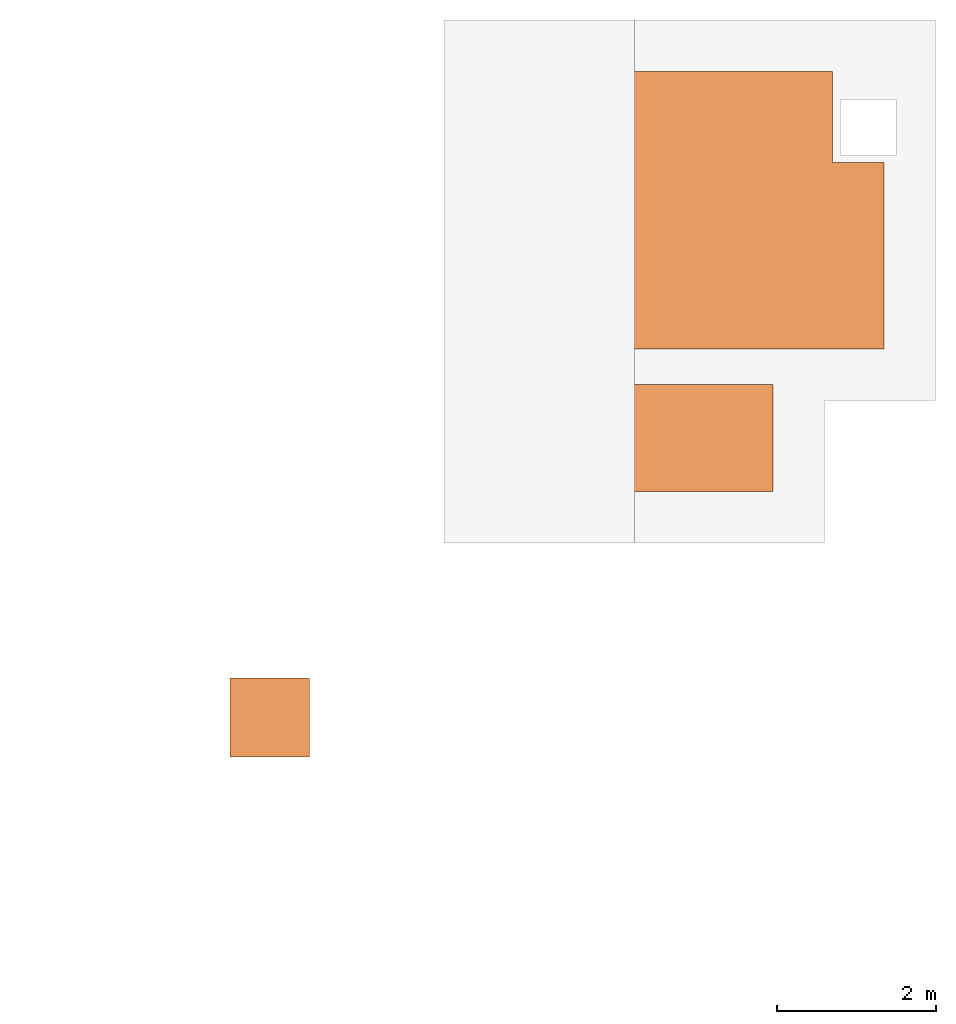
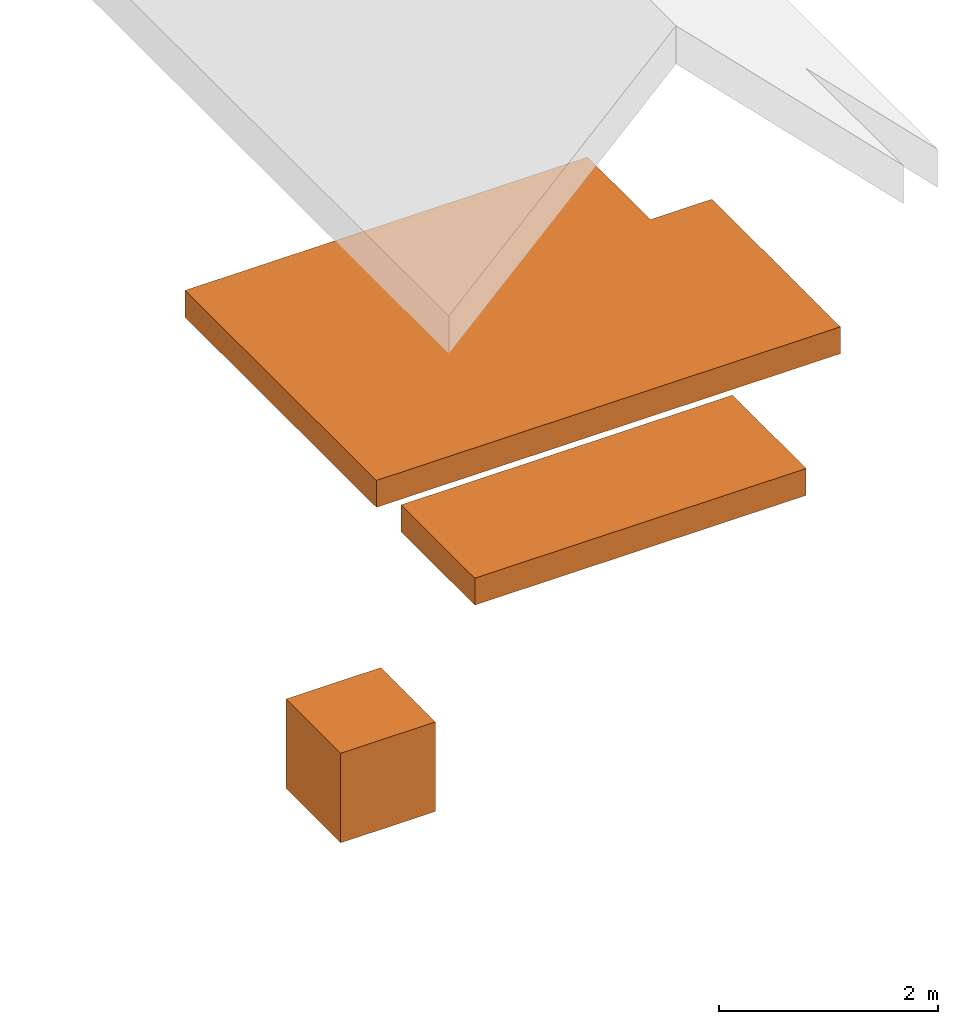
# Not in any storey, part 2 of 2: 2 proxies.
"""IFC4 building model written with IfcOpenShell, lengths in millimetres."""

import ifcopenshell
import ifcopenshell.guid

model = None  # the IFC model being written
_history = None  # IfcOwnerHistory: only IFC2X3 demands one
_inside = {}  # id of a spatial element -> (the spatial element, [elements in it])
_under = {}  # id of a project, library or spatial element -> (it, [spatial elements below it])
_declared = {}  # id of a project -> (the project, [libraries it declares])
_typed = {}  # id of a type object -> (the type object, [elements of that type])
_made_of = {}  # id of a material, layer set ... -> (it, [elements and type objects made of it])


def new_model(schema):
    """Start an empty IFC model of exactly this schema.

    Asked for "IFC4X3", IfcOpenShell would pick the latest addendum, in which some entities
    have other attributes; the version numbers below select the first issue.
    IFC2X3 requires an IfcOwnerHistory on every rooted entity: one is made here for all.
    """
    global model, _history
    if schema == "IFC4X3":
        model = ifcopenshell.file(schema_version=(4, 3, 0, 0))
    else:
        model = ifcopenshell.file(schema=schema)
    _inside.clear()
    _under.clear()
    _declared.clear()
    _typed.clear()
    _made_of.clear()
    _history = None
    if model.schema == "IFC2X3":
        org = make("IfcOrganization", Name="unknown")
        user = make(
            "IfcPersonAndOrganization",
            ThePerson=make("IfcPerson", FamilyName="unknown"),
            TheOrganization=org,
        )
        app = make(
            "IfcApplication",
            ApplicationDeveloper=org,
            Version="unknown",
            ApplicationFullName="unknown",
            ApplicationIdentifier="unknown",
        )
        _history = make(
            "IfcOwnerHistory",
            OwningUser=user,
            OwningApplication=app,
            ChangeAction="ADDED",
            CreationDate=0,
        )
    return model


def make(cls, **values):
    """One entity of the class cls with the attributes given. An attribute that is None is left unset."""
    return model.create_entity(
        cls, **{name: value for name, value in values.items() if value is not None}
    )


def rooted(cls, **values):
    """An entity with a GlobalId (a new one), such as an element, a storey or a relation."""
    return make(cls, GlobalId=ifcopenshell.guid.new(), OwnerHistory=_history, **values)


def si_unit(unit_type, name, prefix=None):
    """IfcSIUnit, for example si_unit("LENGTHUNIT", "METRE", prefix="MILLI")."""
    return make("IfcSIUnit", UnitType=unit_type, Prefix=prefix, Name=name)


def assignment(units):
    """IfcUnitAssignment: the units of a project."""
    return None if units is None else make("IfcUnitAssignment", Units=units)


def point(xyz):
    """IfcCartesianPoint."""
    return None if xyz is None else make("IfcCartesianPoint", Coordinates=xyz)


def direction(xyz):
    """IfcDirection."""
    return None if xyz is None else make("IfcDirection", DirectionRatios=xyz)


def frame(location, z_axis=None, x_axis=None):
    """IfcAxis2Placement3D, a coordinate frame: its origin and axes. An axis left out is left unset."""
    return make(
        "IfcAxis2Placement3D",
        Location=point(location),
        Axis=direction(z_axis),
        RefDirection=direction(x_axis),
    )


def origin_with_axes():
    """The frame at (0, 0, 0) with the z axis (0, 0, 1) and the x axis (1, 0, 0) written out."""
    return frame((0.0, 0.0, 0.0), z_axis=(0.0, 0.0, 1.0), x_axis=(1.0, 0.0, 0.0))


def place(relative_to, where):
    """IfcLocalPlacement: puts the frame where relative to a parent placement (None: the world)."""
    return make(
        "IfcLocalPlacement", PlacementRelTo=relative_to, RelativePlacement=where
    )


def context(
    kind, dimensions, precision=None, world=None, true_north=None, identifier=None
):
    """IfcGeometricRepresentationContext, for example the 3D "Model" context."""
    return make(
        "IfcGeometricRepresentationContext",
        ContextIdentifier=identifier,
        ContextType=kind,
        CoordinateSpaceDimension=dimensions,
        Precision=precision,
        WorldCoordinateSystem=world,
        TrueNorth=true_north,
    )


def subcontext(parent, identifier, kind, view, scale=None):
    """IfcGeometricRepresentationSubContext, for example "Body" below "Model"."""
    return make(
        "IfcGeometricRepresentationSubContext",
        ContextIdentifier=identifier,
        ContextType=kind,
        ParentContext=parent,
        TargetScale=scale,
        TargetView=view,
    )


def project(units=None, contexts=None):
    """IfcProject with its units and contexts."""
    return rooted(
        "IfcProject",
        Name="project",
        RepresentationContexts=contexts,
        UnitsInContext=assignment(units),
    )


def spatial(cls, under=None, at=None, **own):
    """A site, building, storey or space (cls), placed at a placement, below another one or the project."""
    s = rooted(cls, ObjectPlacement=at, **own)
    if under is not None:
        _under.setdefault(under.id(), (under, []))[1].append(s)
    return s


def point_list(points):
    """IfcCartesianPointList2D or 3D."""
    cls = (
        "IfcCartesianPointList2D" if len(points[0]) == 2 else "IfcCartesianPointList3D"
    )
    return make(cls, CoordList=points)


def triangles(points, corners, closed=None, point_numbers=None):
    """IfcTriangulatedFaceSet: each triangle names its three corners, points numbered from 1."""
    return make(
        "IfcTriangulatedFaceSet",
        Coordinates=point_list(points),
        Closed=closed,
        CoordIndex=corners,
        PnIndex=point_numbers,
    )


def shape(context_of_items, identifier, shape_type, items):
    """IfcShapeRepresentation: the items that make up one representation, for example the "Body"."""
    return make(
        "IfcShapeRepresentation",
        ContextOfItems=context_of_items,
        RepresentationIdentifier=identifier,
        RepresentationType=shape_type,
        Items=items,
    )


def material(Name=None, Category=None):
    """IfcMaterial."""
    return make("IfcMaterial", Name=Name, Category=Category)


def made_of(thing, what):
    """Note that an element or type object is made of a material, layer set ...; save() writes the relation."""
    if what is not None:
        _made_of.setdefault(what.id(), (what, []))[1].append(thing)
    return thing


def type_object(cls, material=None, **own):
    """A type object (cls), such as IfcWallType, which elements share."""
    return made_of(rooted(cls, **own), material)


def element(
    cls,
    number,
    at=None,
    inside=None,
    cuts=None,
    type_object=None,
    material=None,
    context=None,
    identifier="Body",
    shape_type=None,
    held_by="IfcProductDefinitionShape",
    body=None,
    shapes=None,
    **own,
):
    """One element of the class cls, such as IfcWall. Its Tag is "e" and its number.

    at: its placement. inside: the storey or other place that contains it. cuts: it is an
    opening in that element (IfcRelVoidsElement). A single representation is given by context,
    identifier, shape_type and body (its items); several are given by shapes. held_by: the class
    of the entity that holds the representations. save() writes the other relations.
    """
    e = rooted(cls, Tag="e%d" % number, ObjectPlacement=at, **own)
    if body is not None:
        shapes = [shape(context, identifier, shape_type, body)]
    if shapes is not None:
        e.Representation = make(held_by, Representations=shapes)
    if inside is not None:
        _inside.setdefault(inside.id(), (inside, []))[1].append(e)
    if cuts is not None:
        rooted(
            "IfcRelVoidsElement", RelatingBuildingElement=cuts, RelatedOpeningElement=e
        )
    if type_object is not None:
        _typed.setdefault(type_object.id(), (type_object, []))[1].append(e)
    return made_of(e, material)


def aggregate(whole, parts):
    """IfcRelAggregates: a whole, such as a stair, and the parts it consists of."""
    return rooted("IfcRelAggregates", RelatingObject=whole, RelatedObjects=parts)


def save(model, path):
    """Write the relations noted so far, then the file.

    IfcRelAggregates (storeys below a building ...), IfcRelContainedInSpatialStructure (elements
    in a storey), IfcRelDefinesByType, IfcRelAssociatesMaterial and IfcRelDeclares: one each for
    every whole, place, type object, material and project.
    """
    for whole, parts in _under.values():
        aggregate(whole, parts)
    for where, things in _inside.values():
        rooted(
            "IfcRelContainedInSpatialStructure",
            RelatedElements=things,
            RelatingStructure=where,
        )
    for kind, things in _typed.values():
        rooted("IfcRelDefinesByType", RelatedObjects=things, RelatingType=kind)
    for what, things in _made_of.values():
        rooted("IfcRelAssociatesMaterial", RelatedObjects=things, RelatingMaterial=what)
    for by, libraries in _declared.values():
        rooted("IfcRelDeclares", RelatingContext=by, RelatedDefinitions=libraries)
    model.write(path)


model = new_model("IFC4")

# Units and contexts
model_context = context("Model", 3, world=origin_with_axes())
body_context = subcontext(model_context, "Body", "Model", "MODEL_VIEW")
ifc_project = project(units=[si_unit("LENGTHUNIT", "METRE", prefix="MILLI"), si_unit("AREAUNIT", "SQUARE_METRE"), si_unit("VOLUMEUNIT", "CUBIC_METRE")], contexts=[model_context])

# Sites, building
site_1_placement = place(None, origin_with_axes())
site_1 = spatial("IfcSite", under=ifc_project, at=site_1_placement, Name="environment - site", CompositionType="COMPLEX")
site_2_placement = place(site_1_placement, frame((5800.000000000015, 5800.000000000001, -1300.0000000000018), z_axis=(0.0, 0.0, 1.0), x_axis=(1.0, 0.0, 0.0)))
site_2 = spatial("IfcSite", under=site_1, at=site_2_placement, Name="house - site", CompositionType="PARTIAL")
building_placement = place(site_2_placement, frame((-2799.999999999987, -2799.9999999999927, 1300.0), z_axis=(0.0, 0.0, 1.0), x_axis=(1.0, 0.0, 0.0)))
building = spatial("IfcBuilding", under=site_2, at=building_placement, Name="Single-family house", CompositionType="ELEMENT")

# Proxies
ifc_material_1 = material(Name="bulk-material_sand-coarse_generic")
building_element_proxy_type_1 = type_object("IfcBuildingElementProxyType", Name="sand bedding", PredefinedType="ELEMENT")
proxy_1_placement = place(building_placement, origin_with_axes())
element("IfcBuildingElementProxy", 1, at=proxy_1_placement, inside=building, type_object=building_element_proxy_type_1, material=ifc_material_1, Name="sand bedding", ObjectType="subgrade", context=body_context, shape_type="Tessellation", body=[
    triangles([(3662.323995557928, 799.9999999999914, -549.9999999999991), (2799.999999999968, 799.9999999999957, -598.6920309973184), (2799.9999999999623, 1248.1378189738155, -549.9999999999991), (2799.999999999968, 401.1533964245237, -549.9999999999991), (2508.770683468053, 799.9999999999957, -549.9999999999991), (2799.999999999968, 799.9999999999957, -598.6920309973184), (3662.323995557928, 799.9999999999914, -549.9999999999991), (3034.5398606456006, 565.4601393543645, -549.9999999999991), (2799.999999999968, 799.9999999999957, -598.6920309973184), (2799.999999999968, 799.9999999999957, -598.6920309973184), (2508.770683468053, 799.9999999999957, -549.9999999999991), (2612.046142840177, 987.9538571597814, -549.9999999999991), (3034.5398606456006, 565.4601393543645, -549.9999999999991), (2799.999999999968, 401.1533964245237, -549.9999999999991), (2799.999999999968, 799.9999999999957, -598.6920309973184), (2799.999999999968, 799.9999999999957, -598.6920309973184), (2612.046142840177, 987.9538571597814, -549.9999999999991), (2799.9999999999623, 1248.1378189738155, -549.9999999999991), (5250.000000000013, 2149.9999999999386, -249.99999999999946), (4600.000000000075, 4499.999999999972, -249.99999999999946), (350.0000000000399, 2149.99999999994, -249.99999999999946), (5250.000000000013, 4499.999999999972, -249.99999999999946), (4600.000000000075, 5650.0000000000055, -249.99999999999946), (350.0000000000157, 5649.99999999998, -249.99999999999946), (3850.0000000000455, 349.99999999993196, -249.99999999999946), (350.0000000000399, 1699.999999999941, -249.99999999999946), (350.00000000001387, 349.9999999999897, -249.99999999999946), (3850.0000000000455, 1699.9999999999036, -249.99999999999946), (350.00000000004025, 1699.9999999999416, -549.9999999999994), (2612.046142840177, 987.9538571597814, -549.9999999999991), (2508.770683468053, 799.9999999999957, -549.9999999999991), (2799.9999999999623, 1248.1378189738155, -549.9999999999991), (3850.0000000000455, 1699.9999999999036, -549.9999999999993), (3662.323995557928, 799.9999999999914, -549.9999999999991), (350.00000000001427, 349.9999999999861, -549.9999999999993), (2799.999999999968, 401.1533964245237, -549.9999999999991), (3850.0000000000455, 349.99999999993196, -549.9999999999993), (3034.5398606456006, 565.4601393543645, -549.9999999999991), (4600.000000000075, 5650.0000000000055, -549.9999999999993), (350.00000000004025, 2149.99999999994, -549.9999999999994), (350.0000000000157, 5649.99999999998, -549.9999999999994), (4600.000000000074, 4499.999999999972, -549.9999999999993), (5250.000000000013, 2149.9999999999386, -549.9999999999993), (5250.000000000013, 4499.999999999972, -549.9999999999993), (3850.0000000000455, 349.99999999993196, -549.9999999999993), (350.00000000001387, 349.9999999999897, -249.99999999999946), (350.00000000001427, 349.9999999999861, -549.9999999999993), (3850.0000000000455, 349.99999999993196, -249.99999999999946), (350.00000000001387, 349.9999999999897, -249.99999999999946), (350.00000000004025, 1699.9999999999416, -549.9999999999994), (350.00000000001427, 349.9999999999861, -549.9999999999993), (350.0000000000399, 1699.999999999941, -249.99999999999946), (350.0000000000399, 1699.999999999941, -249.99999999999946), (3850.0000000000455, 1699.9999999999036, -549.9999999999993), (350.00000000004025, 1699.9999999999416, -549.9999999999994), (3850.0000000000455, 1699.9999999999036, -249.99999999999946), (5250.000000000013, 2149.9999999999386, -549.9999999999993), (350.0000000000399, 2149.99999999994, -249.99999999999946), (350.00000000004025, 2149.99999999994, -549.9999999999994), (5250.000000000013, 2149.9999999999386, -249.99999999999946), (350.0000000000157, 5649.99999999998, -249.99999999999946), (350.00000000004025, 2149.99999999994, -549.9999999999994), (350.0000000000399, 2149.99999999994, -249.99999999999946), (350.0000000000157, 5649.99999999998, -549.9999999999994), (3850.0000000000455, 1699.9999999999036, -549.9999999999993), (3850.0000000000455, 349.99999999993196, -249.99999999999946), (3850.0000000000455, 349.99999999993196, -549.9999999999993), (3850.0000000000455, 1699.9999999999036, -249.99999999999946), (350.0000000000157, 5649.99999999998, -249.99999999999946), (4600.000000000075, 5650.0000000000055, -549.9999999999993), (350.0000000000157, 5649.99999999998, -549.9999999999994), (4600.000000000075, 5650.0000000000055, -249.99999999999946), (5250.000000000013, 4499.999999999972, -549.9999999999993), (5250.000000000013, 2149.9999999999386, -249.99999999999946), (5250.000000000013, 2149.9999999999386, -549.9999999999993), (5250.000000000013, 4499.999999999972, -249.99999999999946), (4600.000000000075, 5650.0000000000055, -549.9999999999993), (4600.000000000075, 4499.999999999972, -249.99999999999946), (4600.000000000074, 4499.999999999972, -549.9999999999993), (4600.000000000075, 5650.0000000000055, -249.99999999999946), (4600.000000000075, 4499.999999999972, -249.99999999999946), (5250.000000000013, 4499.999999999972, -549.9999999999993), (4600.000000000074, 4499.999999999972, -549.9999999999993), (5250.000000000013, 4499.999999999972, -249.99999999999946)], [[1, 2, 3], [4, 5, 6], [7, 8, 9], [10, 11, 12], [13, 14, 15], [16, 17, 18], [19, 20, 21], [20, 19, 22], [21, 23, 24], [23, 21, 20], [25, 26, 27], [26, 25, 28], [29, 30, 31], [30, 29, 32], [32, 29, 33], [32, 33, 34], [35, 36, 37], [36, 35, 29], [36, 29, 31], [37, 36, 38], [37, 38, 34], [37, 34, 33], [39, 40, 41], [40, 39, 42], [42, 43, 40], [43, 42, 44], [45, 46, 47], [46, 45, 48], [49, 50, 51], [50, 49, 52], [53, 54, 55], [54, 53, 56], [57, 58, 59], [58, 57, 60], [61, 62, 63], [62, 61, 64], [65, 66, 67], [66, 65, 68], [69, 70, 71], [70, 69, 72], [73, 74, 75], [74, 73, 76], [77, 78, 79], [78, 77, 80], [81, 82, 83], [82, 81, 84]]),
])
ifc_material_2 = material(Name="virtual_white")
building_element_proxy_type_2 = type_object("IfcBuildingElementProxyType", Name="origin", PredefinedType="USERDEFINED")
proxy_2_placement = place(site_2_placement, frame((-5800.000000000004, -5799.999999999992, 1300.0), z_axis=(0.0, 0.0, 1.0), x_axis=(1.0, 0.0, 0.0)))
element("IfcBuildingElementProxy", 2, at=proxy_2_placement, inside=site_2, type_object=building_element_proxy_type_2, material=ifc_material_2, Name="origin", ObjectType="origin", context=body_context, shape_type="Tessellation", body=[
    triangles([(1000.0000000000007, 1000.0000000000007, 0.0), (1000.0000000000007, 0.0, 1000.0), (1000.0000000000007, 0.0, 0.0), (1000.0000000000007, 1000.0000000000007, 1000.0), (0.0, 1000.0000000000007, 1000.0), (1000.0000000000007, 1000.0000000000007, 0.0), (0.0, 1000.0000000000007, 0.0), (1000.0000000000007, 1000.0000000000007, 1000.0), (1000.0000000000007, 1000.0000000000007, 0.0), (0.0, 0.0, 0.0), (0.0, 1000.0000000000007, 0.0), (1000.0000000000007, 0.0, 0.0), (0.0, 1000.0000000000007, 1000.0), (0.0, 0.0, 0.0), (0.0, 0.0, 1000.0), (0.0, 1000.0000000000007, 0.0), (1000.0000000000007, 0.0, 1000.0), (0.0, 1000.0000000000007, 1000.0), (0.0, 0.0, 1000.0), (1000.0000000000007, 1000.0000000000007, 1000.0), (1000.0000000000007, 0.0, 1000.0), (0.0, 0.0, 0.0), (1000.0000000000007, 0.0, 0.0), (0.0, 0.0, 1000.0)], [[1, 2, 3], [2, 1, 4], [5, 6, 7], [6, 5, 8], [9, 10, 11], [10, 9, 12], [13, 14, 15], [14, 13, 16], [17, 18, 19], [18, 17, 20], [21, 22, 23], [22, 21, 24]]),
])

save(model, "model.ifc")
